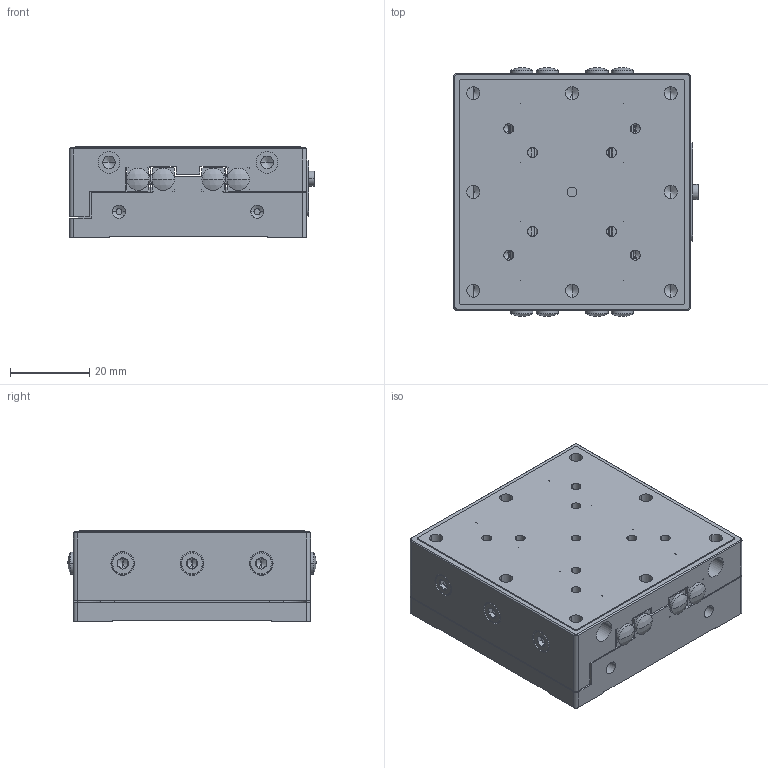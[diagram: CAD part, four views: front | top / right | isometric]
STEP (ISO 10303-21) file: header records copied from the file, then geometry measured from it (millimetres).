
FILE_DESCRIPTION (( 'STEP AP203' ), '1' );
FILE_NAME ('LS2-0618s.STEP', '2023-04-26T05:55:12', ( '微软用户' ), ( '微软中国' ), 'SwSTEP 2.0', 'SolidWorks 2021', '' );
FILE_SCHEMA (( 'CONFIG_CONTROL_DESIGN' ));
Length unit declared in the file: millimetre
Products named in the file (1): LS2-0618s
Bounding box: 62 x 63 x 23 mm (x, y, z)
Volume: 76443.5 mm3; surface area: 34588.8 mm2
Topology: 8 solids, 17 shells, 1397 faces, 3537 edges, 2172 vertices
Faces by surface type: plane 681, cylinder 398, cone 292, sphere 26
Entity records: 42178 total; most frequent: CARTESIAN_POINT 7988, DIRECTION 7272, ORIENTED_EDGE 6946, EDGE_CURVE 3473, AXIS2_PLACEMENT_3D 2559, VERTEX_POINT 2172, LINE 2154, VECTOR 2154
